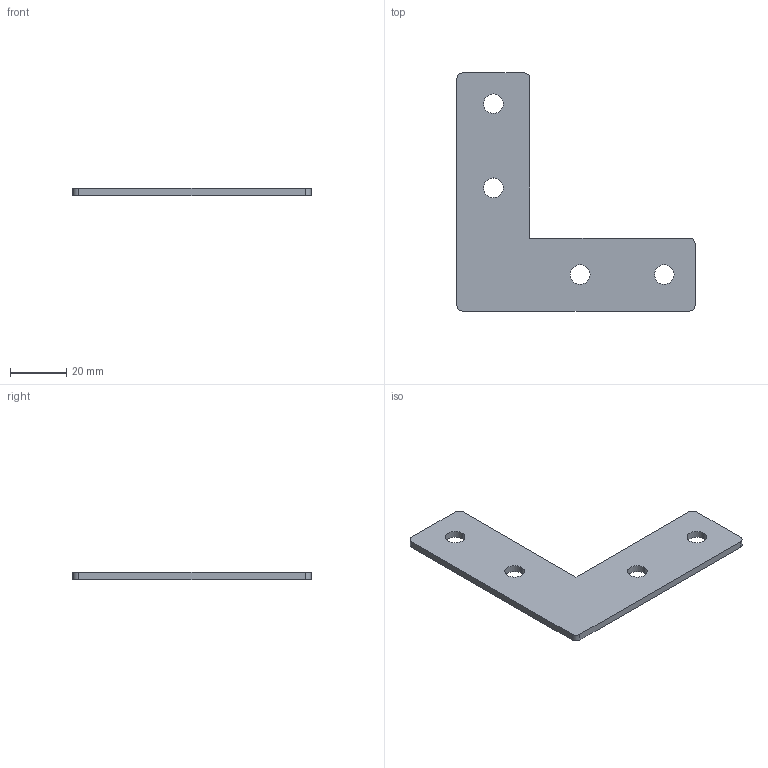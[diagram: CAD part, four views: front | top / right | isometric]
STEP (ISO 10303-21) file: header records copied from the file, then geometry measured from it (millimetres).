
FILE_DESCRIPTION (( 'STEP AP203' ), '1' );
FILE_NAME ('107-30L倰蟀諉啣.STEP', '2015-07-09T08:40:14', ( '' ), ( '' ), 'SwSTEP 2.0', 'SolidWorks 2013', '' );
FILE_SCHEMA (( 'CONFIG_CONTROL_DESIGN' ));
Length unit declared in the file: millimetre
Products named in the file (1): 107-30L倰蟀諉啣
Bounding box: 85 x 85 x 2.5 mm (x, y, z)
Volume: 8964.4 mm3; surface area: 8230.7 mm2
Topology: 1 solids, 1 shells, 21 faces, 57 edges, 38 vertices
Faces by surface type: cylinder 13, plane 8
Entity records: 770 total; most frequent: DIRECTION 127, CARTESIAN_POINT 117, ORIENTED_EDGE 114, EDGE_CURVE 57, AXIS2_PLACEMENT_3D 48, VERTEX_POINT 38, LINE 31, VECTOR 31
